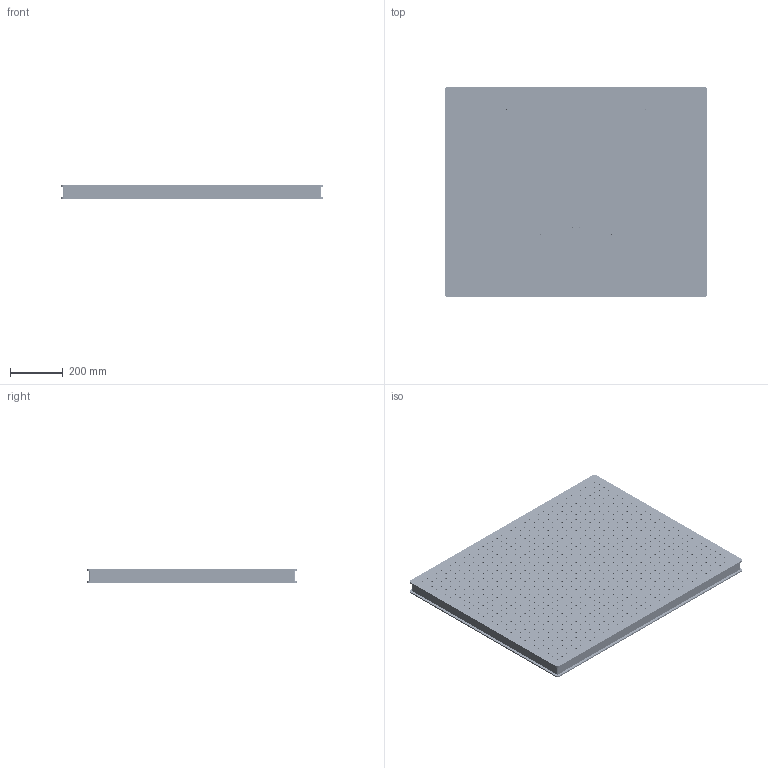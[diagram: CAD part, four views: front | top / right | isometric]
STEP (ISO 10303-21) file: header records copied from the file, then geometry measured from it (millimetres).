
FILE_DESCRIPTION (( 'STEP AP203' ), '1' );
FILE_NAME ('OTBB810-50 怢醱.STEP', '2019-05-09T08:40:52', ( 'User' ), ( 'User' ), 'SwSTEP 2.0', 'SolidWorks 2016', '' );
FILE_SCHEMA (( 'CONFIG_CONTROL_DESIGN' ));
Length unit declared in the file: millimetre
Products named in the file (1): OTBB810-50 怢醱
Bounding box: 1000 x 800 x 50 mm (x, y, z)
Surface area: 3453296 mm2 (no closed solid volume)
Topology: 0 solids, 30 shells, 2352 faces, 7272 edges, 4952 vertices
Faces by surface type: cylinder 2292, plane 60
Entity records: 88522 total; most frequent: DIRECTION 16562, CARTESIAN_POINT 14577, ORIENTED_EDGE 14184, EDGE_CURVE 7272, AXIS2_PLACEMENT_3D 6937, VERTEX_POINT 4952, EDGE_LOOP 4632, CIRCLE 4584
